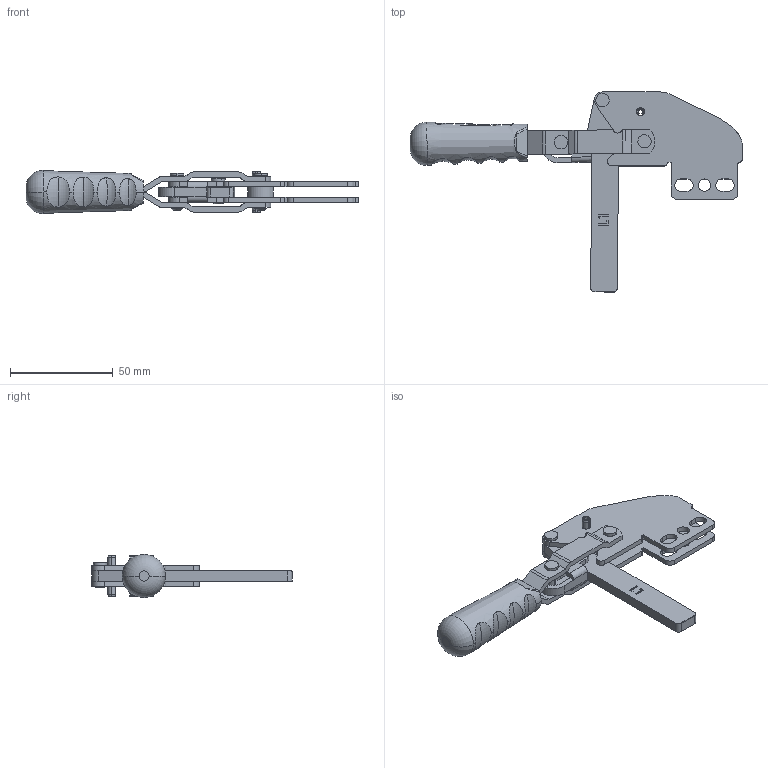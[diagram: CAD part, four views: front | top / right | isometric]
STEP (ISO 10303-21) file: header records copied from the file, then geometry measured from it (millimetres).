
FILE_DESCRIPTION (( 'STEP AP203' ), '1' );
FILE_NAME ('1102_P_L1.STEP', '2025-03-03T13:33:58', ( '' ), ( '' ), 'SwSTEP 2.0', 'SolidWorks 2025', '' );
FILE_SCHEMA (( 'CONFIG_CONTROL_DESIGN' ));
Length unit declared in the file: millimetre
Products named in the file (13): 1102_A_G(GÖVDE)_Varsayılan; C55_T(YENİ_TUTAMAK)_Varsayılan; Mirror1102_HK(HAREKET_KOLU)_Varsayılan; Ø4x20_YP(YARIKLI_PİM)_Varsayılan; Ø7xØ4x10_B(BURÇ)_Varsayılan; 1102_BK_L1(BASKI_KOLU_LAMA1)_Varsayılan; 1102_M(MAFSAL)_Varsayılan; 1102_HK(HAREKET_KOLU)_Varsayılan; 1102_P_L1; Mirror1102_A_G(GÖVDE)_Varsayılan; Ø12,5xØ7,5x5_LY(LAZER_YÜZÜK)_Varsayılan; Ø4x17_P(PERÇİN)_Varsayılan; Ø4x12,5_P(PERÇİN)_Varsayılan
Assembly tree (14 placements, depth 2):
  1102_P_L1
    1102_A_G(GÖVDE)_Varsayılan
    1102_BK_L1(BASKI_KOLU_LAMA1)_Varsayılan
    1102_M(MAFSAL)_Varsayılan
    1102_HK(HAREKET_KOLU)_Varsayılan
    Ø7xØ4x10_B(BURÇ)_Varsayılan
    Ø12,5xØ7,5x5_LY(LAZER_YÜZÜK)_Varsayılan
    Mirror1102_A_G(GÖVDE)_Varsayılan
    Mirror1102_HK(HAREKET_KOLU)_Varsayılan
    Ø4x17_P(PERÇİN)_Varsayılan  x2
    Ø4x12,5_P(PERÇİN)_Varsayılan  x2
    Ø4x20_YP(YARIKLI_PİM)_Varsayılan
    C55_T(YENİ_TUTAMAK)_Varsayılan
Bounding box: 161.41 x 97.3 x 20.98 mm (x, y, z)
Volume: 40105.5 mm3; surface area: 31206.6 mm2
Topology: 14 solids, 14 shells, 708 faces, 1860 edges, 1210 vertices
Faces by surface type: plane 430, cylinder 216, torus 34, cone 16, bspline 12
Entity records: 20803 total; most frequent: CARTESIAN_POINT 4217, DIRECTION 3174, ORIENTED_EDGE 3160, EDGE_CURVE 1580, AXIS2_PLACEMENT_3D 1065, VECTOR 1044, LINE 1044, VERTEX_POINT 1034
